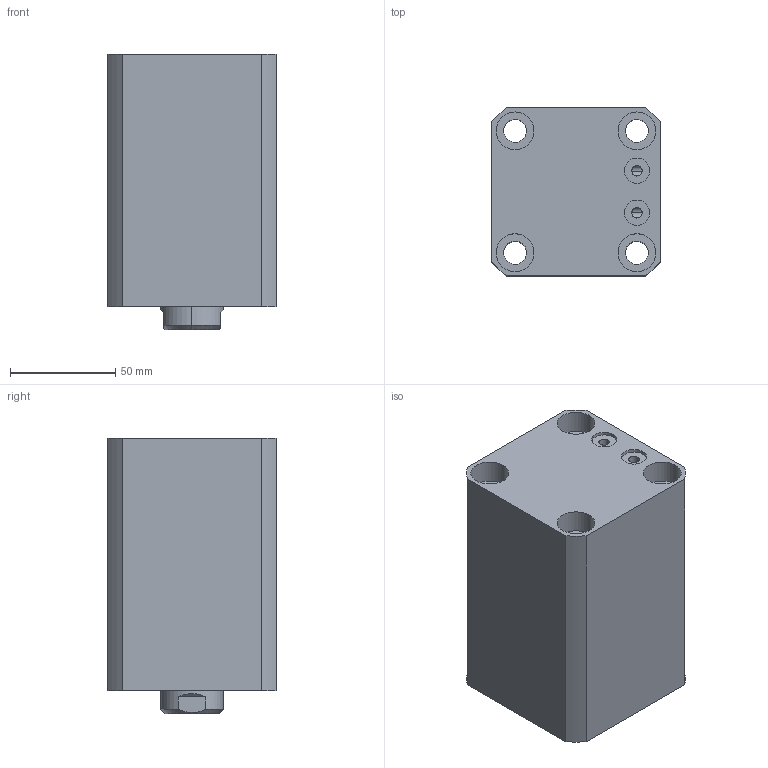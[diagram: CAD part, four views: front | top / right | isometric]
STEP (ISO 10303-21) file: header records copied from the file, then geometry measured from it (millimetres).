
FILE_DESCRIPTION (( 'STEP AP203' ), '1' );
FILE_NAME ('CHTB-SDMB50-60N.STEP', '2018-05-19T06:05:29', ( '' ), ( '' ), 'SwSTEP 2.0', 'SolidWorks 2015', '' );
FILE_SCHEMA (( 'CONFIG_CONTROL_DESIGN' ));
Length unit declared in the file: millimetre
Products named in the file (5): 掛极SDMB50-60N; M6; 活塞杆SDMB50-60N; CHTB-SDMB50-60N; CHTM-SDMA50QG
Assembly tree (5 placements, depth 2):
  CHTB-SDMB50-60N
    掛极SDMB50-60N
    活塞杆SDMB50-60N
    CHTM-SDMA50QG
    M6  x2
Bounding box: 80 x 80 x 131 mm (x, y, z)
Volume: 620629.4 mm3; surface area: 120714.2 mm2
Topology: 5 solids, 5 shells, 263 faces, 693 edges, 458 vertices
Faces by surface type: cylinder 135, plane 55, cone 31, bspline 26, torus 16
Entity records: 13963 total; most frequent: CARTESIAN_POINT 8102, ORIENTED_EDGE 1188, DIRECTION 1016, EDGE_CURVE 594, AXIS2_PLACEMENT_3D 416, VERTEX_POINT 397, EDGE_LOOP 269, ADVANCED_FACE 228
